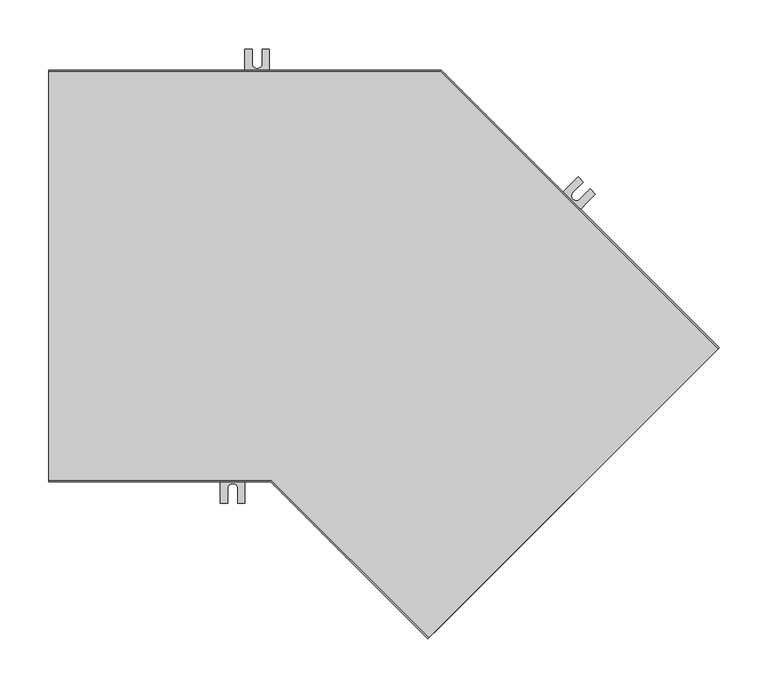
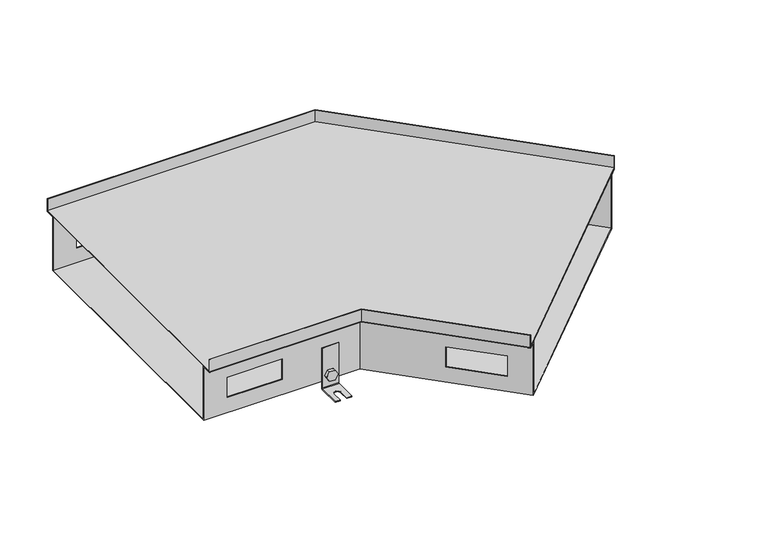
"""IFC4 building model written with IfcOpenShell, lengths in millimetres: proxy geometry, TECHNO_Угловой элемент_KVU : 420_105_135°."""

from ifc_helpers import new_model, si_unit, point, frame, frame_2d, origin, place, context, project, spatial, polyline, circle_curve, ellipse_curve, trimmed, segment, composite_curve, outline, extrude, source, transform, mapped, element, save
from ifc_brep_helpers import plane_surface, cylinder_surface, revolved_surface, advanced_brep


def mechanical_equipment_e89fac1e(model_context):
    return source(origin(), model_context, "Body", "SolidModel", [
        extrude(outline(composite_curve([segment(trimmed(circle_curve(frame_2d((0.0, -7.5)), 7.5), [point((0.0, -15.0))], [point((0.0, 0.0))], False, "CARTESIAN"), True, "CONTINUOUS"), segment(trimmed(circle_curve(frame_2d((0.0, -7.5)), 7.5), [point((0.0, 0.0))], [point((0.0, -15.0))], False, "CARTESIAN"), True, "CONTINUOUS")], self_intersect=False)), frame((475.0290547, -27.3050358, -95.5), z_axis=(0.7071067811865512, 0.7071067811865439, 0.0), x_axis=(0.0, 0.0, 1.0)), (0.0, 0.0, 1.0), 1.5),
        extrude(outline(polyline([(0.0, 0.0), (8.6602541, 0.0), (12.990381, -7.5), (8.660254, -15.0), (0.0, -15.0), (-4.330127, -7.5), (0.0, 0.0)])), frame((459.1472568, -20.3327833, -95.5), z_axis=(0.7071067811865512, 0.7071067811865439, 0.0), x_axis=(0.3535533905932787, -0.3535533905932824, -0.8660254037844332)), (0.0, 0.0, 1.0), 5.1),
        advanced_brep(
        [(477.7160605, -31.6890978, -50.5), (477.7160605, -31.6890978, -113.5), (477.1503751, -32.2547832, -114.3), (453.8158513, -55.589307, -114.3), (453.8158513, -55.589307, -115.5), (477.1503751, -32.2547832, -115.5), (478.5645886, -30.8405697, -113.5), (478.5645886, -30.8405697, -50.5), (460.038391, -14.0114283, -50.5), (460.8869191, -13.1629001, -50.5), (460.8869191, -13.1629001, -113.5), (459.4727056, -14.5771137, -115.5), (436.1381818, -37.9116375, -115.5), (436.1381818, -37.9116375, -114.3), (459.4727056, -14.5771137, -114.3), (460.038391, -14.0114283, -113.5), (441.4414826, -43.2149383, -114.3), (452.0480843, -32.6083366, -114.3), (459.1191522, -39.6794044, -114.3), (448.5125504, -50.2860062, -114.3), (448.5125504, -50.2860062, -115.5), (441.4414826, -43.2149383, -115.5), (459.1191522, -39.6794044, -115.5), (452.0480843, -32.6083366, -115.5)],
        [
            (0, 1),
            (1, 2, circle_curve(frame((477.1503751, -32.2547832, -113.5), z_axis=(-0.7071067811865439, 0.7071067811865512, 0.0), x_axis=(-0.7071067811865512, -0.7071067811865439, 0.0)), 0.8)),
            (2, 3),
            (3, 4),
            (4, 5),
            (5, 6, circle_curve(frame((477.1503751, -32.2547832, -113.5), z_axis=(0.7071067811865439, -0.7071067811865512, 0.0), x_axis=(-0.7071067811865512, -0.7071067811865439, 0.0)), 2.0)),
            (6, 7),
            (7, 0),
            (8, 9),
            (9, 10),
            (10, 11, circle_curve(frame((459.4727056, -14.5771137, -113.5), z_axis=(-0.7071067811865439, 0.7071067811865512, 0.0), x_axis=(-0.7071067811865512, -0.7071067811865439, 0.0)), 2.0)),
            (11, 12),
            (12, 13),
            (13, 14),
            (14, 15, circle_curve(frame((459.4727056, -14.5771137, -113.5), z_axis=(0.7071067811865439, -0.7071067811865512, 0.0), x_axis=(-0.7071067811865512, -0.7071067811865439, 0.0)), 0.8)),
            (15, 8),
            (0, 8),
            (15, 1),
            (14, 2),
            (13, 16),
            (16, 17),
            (17, 18, circle_curve(frame((455.5836183, -36.1438705, -114.3), z_axis=(0.0, 0.0, -1.0), x_axis=(0.7071067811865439, -0.7071067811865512, 0.0)), 5.0)),
            (18, 19),
            (19, 3),
            (19, 20),
            (20, 4),
            (12, 21),
            (21, 16),
            (20, 22),
            (22, 23, circle_curve(frame((455.5836183, -36.1438705, -115.5), z_axis=(0.0, 0.0, 1.0), x_axis=(0.7071067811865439, -0.7071067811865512, 0.0)), 5.0)),
            (23, 21),
            (11, 5),
            (10, 6),
            (9, 7),
            (23, 17),
            (18, 22),
        ],
        [
            plane_surface(frame((477.7160605, -31.6890978, -50.5), z_axis=(0.7071067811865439, -0.7071067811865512, 0.0), x_axis=(0.0, 0.0, -1.0))),
            plane_surface(frame((460.038391, -14.0114283, -50.5), z_axis=(-0.7071067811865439, 0.7071067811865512, 0.0), x_axis=(0.0, 0.0, 1.0))),
            plane_surface(frame((477.7160605, -31.6890978, -50.5), z_axis=(-0.7071067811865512, -0.7071067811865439, 0.0), x_axis=(-0.7071067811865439, 0.7071067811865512, 0.0))),
            revolved_surface(polyline([(458.9070201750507, -15.142799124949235, -113.5), (476.58468967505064, -32.82046862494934, -113.5)]), (459.4727056, -14.5771137, -113.5), (-0.7071067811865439, 0.7071067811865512, 0.0)),
            plane_surface(frame((477.1503751, -32.2547832, -114.3), z_axis=(0.0, 0.0, 1.0), x_axis=(-0.7071067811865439, 0.7071067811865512, 0.0))),
            plane_surface(frame((453.8158513, -55.589307, -114.3), z_axis=(-0.7071067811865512, -0.7071067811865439, 0.0), x_axis=(-0.7071067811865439, 0.7071067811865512, 0.0))),
            plane_surface(frame((453.8158513, -55.589307, -115.5), z_axis=(0.0, 0.0, -1.0), x_axis=(-0.7071067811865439, 0.7071067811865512, 0.0))),
            cylinder_surface(frame((459.4727056, -14.5771137, -113.5), z_axis=(0.7071067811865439, -0.7071067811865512, 0.0), x_axis=(-0.7071067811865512, -0.7071067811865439, 0.0)), 2.0),
            plane_surface(frame((478.5645886, -30.8405697, -113.5), z_axis=(0.7071067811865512, 0.7071067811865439, 0.0), x_axis=(-0.7071067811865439, 0.7071067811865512, 0.0))),
            plane_surface(frame((478.5645886, -30.8405697, -50.5), z_axis=(0.0, 0.0, 1.0), x_axis=(-0.7071067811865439, 0.7071067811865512, 0.0))),
            plane_surface(frame((452.0480843, -32.6083366, -114.3), z_axis=(0.7071067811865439, -0.7071067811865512, 0.0), x_axis=(0.0, 0.0, -1.0))),
            plane_surface(frame((448.5125504, -50.2860062, -114.3), z_axis=(-0.707106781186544, 0.7071067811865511, 0.0), x_axis=(0.0, 0.0, -1.0))),
            revolved_surface(polyline([(459.1191522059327, -39.67940440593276, -114.3), (459.1191522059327, -39.67940440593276, -115.5)]), (455.5836183, -36.1438705, -115.5), (0.0, 0.0, 1.0)),
        ],
        [
            (0, [[1, 2, 3, 4, 5, 6, 7, 8]]),
            (1, [[9, 10, 11, 12, 13, 14, 15, 16]]),
            (2, [[-1, 17, -16, 18]]),
            (3, [[-2, -18, -15, 19]]),
            (4, [[-3, -19, -14, 20, 21, 22, 23, 24]]),
            (5, [[-4, -24, 25, 26]]),
            (5, [[-13, 27, 28, -20]]),
            (6, [[-5, -26, 29, 30, 31, -27, -12, 32]]),
            (7, [[-6, -32, -11, 33]]),
            (8, [[-7, -33, -10, 34]]),
            (9, [[-8, -34, -9, -17]]),
            (10, [[35, -21, -28, -31]]),
            (11, [[36, -29, -25, -23]]),
            (12, [[-35, -30, -36, -22]]),
        ],
    ),
        extrude(outline(composite_curve([segment(trimmed(circle_curve(frame_2d((0.0, -7.5)), 7.5), [point((0.0, -15.0))], [point((0.0, 0.0))], False, "CARTESIAN"), True, "CONTINUOUS"), segment(trimmed(circle_curve(frame_2d((0.0, -7.5)), 7.5), [point((0.0, 0.0))], [point((0.0, -15.0))], False, "CARTESIAN"), True, "CONTINUOUS")], self_intersect=False)), frame((517.6675936, 71.9020456, -95.5), z_axis=(0.7071067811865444, 0.7071067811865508, 0.0), x_axis=(0.0, 0.0, -1.0)), (0.0, 0.0, 1.0), 1.5),
        extrude(outline(polyline([(0.0, 0.0), (4.330127, -7.5), (0.0, -15.0000001), (-8.660254, -15.0), (-12.9903811, -7.5000001), (-8.6602541, 0.0), (0.0, 0.0)])), frame((531.0038072, 62.3842087, -95.5), z_axis=(0.7071067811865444, 0.7071067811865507, 0.0), x_axis=(0.35355339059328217, -0.35355339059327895, 0.8660254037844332)), (0.0, 0.0, 1.0), 5.1),
        advanced_brep(
        [(516.041248, 77.3467678, -50.5), (516.041248, 77.3467678, -113.5), (516.6069335, 77.9124533, -114.3), (539.9414572, 101.2469771, -114.3), (539.9414572, 101.2469771, -115.5), (516.6069335, 77.9124533, -115.5), (515.1927199, 76.4982397, -113.5), (515.1927199, 76.4982397, -50.5), (533.7189176, 59.6690983, -50.5), (532.8703894, 58.8205702, -50.5), (532.8703894, 58.8205702, -113.5), (534.284603, 60.2347837, -115.5), (557.6191268, 83.5693075, -115.5), (557.6191268, 83.5693075, -114.3), (534.284603, 60.2347837, -114.3), (533.7189176, 59.6690983, -113.5), (552.3158259, 88.8726084, -114.3), (541.7092242, 78.2660067, -114.3), (534.6381564, 85.3370745, -114.3), (545.2447581, 95.9436762, -114.3), (545.2447581, 95.9436762, -115.5), (552.3158259, 88.8726084, -115.5), (534.6381564, 85.3370745, -115.5), (541.7092242, 78.2660067, -115.5)],
        [
            (0, 1),
            (1, 2, circle_curve(frame((516.6069335, 77.9124533, -113.5), z_axis=(0.7071067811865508, -0.7071067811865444, 0.0), x_axis=(0.7071067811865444, 0.7071067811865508, 0.0)), 0.8)),
            (2, 3),
            (3, 4),
            (4, 5),
            (5, 6, circle_curve(frame((516.6069335, 77.9124533, -113.5), z_axis=(-0.7071067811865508, 0.7071067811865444, 0.0), x_axis=(0.7071067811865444, 0.7071067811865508, 0.0)), 2.0)),
            (6, 7),
            (7, 0),
            (8, 9),
            (9, 10),
            (10, 11, circle_curve(frame((534.284603, 60.2347837, -113.5), z_axis=(0.7071067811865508, -0.7071067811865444, 0.0), x_axis=(0.7071067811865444, 0.7071067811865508, 0.0)), 2.0)),
            (11, 12),
            (12, 13),
            (13, 14),
            (14, 15, circle_curve(frame((534.284603, 60.2347837, -113.5), z_axis=(-0.7071067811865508, 0.7071067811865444, 0.0), x_axis=(0.7071067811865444, 0.7071067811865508, 0.0)), 0.8)),
            (15, 8),
            (0, 8),
            (15, 1),
            (14, 2),
            (13, 16),
            (16, 17),
            (17, 18, circle_curve(frame((538.1736903, 81.8015406, -114.3), z_axis=(0.0, 0.0, -1.0), x_axis=(-0.7071067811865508, 0.7071067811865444, 0.0)), 5.0)),
            (18, 19),
            (19, 3),
            (19, 20),
            (20, 4),
            (12, 21),
            (21, 16),
            (20, 22),
            (22, 23, circle_curve(frame((538.1736903, 81.8015406, -115.5), z_axis=(0.0, 0.0, 1.0), x_axis=(-0.7071067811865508, 0.7071067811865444, 0.0)), 5.0)),
            (23, 21),
            (11, 5),
            (10, 6),
            (9, 7),
            (23, 17),
            (18, 22),
        ],
        [
            plane_surface(frame((516.041248, 77.3467678, -50.5), z_axis=(-0.7071067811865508, 0.7071067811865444, 0.0), x_axis=(0.0, 0.0, -1.0))),
            plane_surface(frame((533.7189176, 59.6690983, -50.5), z_axis=(0.7071067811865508, -0.7071067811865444, 0.0), x_axis=(0.0, 0.0, 1.0))),
            plane_surface(frame((516.041248, 77.3467678, -50.5), z_axis=(0.7071067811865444, 0.7071067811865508, 0.0), x_axis=(0.7071067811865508, -0.7071067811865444, 0.0))),
            revolved_surface(polyline([(534.8502884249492, 60.800469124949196, -113.5), (517.1726188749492, 78.47813867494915, -113.5)]), (534.284603, 60.2347837, -113.5), (0.7071067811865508, -0.7071067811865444, 0.0)),
            plane_surface(frame((516.6069335, 77.9124533, -114.3), z_axis=(0.0, 0.0, 1.0000000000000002), x_axis=(0.7071067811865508, -0.7071067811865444, 0.0))),
            plane_surface(frame((539.9414572, 101.2469771, -114.3), z_axis=(0.7071067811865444, 0.7071067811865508, 0.0), x_axis=(0.7071067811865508, -0.7071067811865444, 0.0))),
            plane_surface(frame((539.9414572, 101.2469771, -115.5), z_axis=(0.0, 0.0, -1.0000000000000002), x_axis=(0.7071067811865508, -0.7071067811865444, 0.0))),
            cylinder_surface(frame((534.284603, 60.2347837, -113.5), z_axis=(-0.7071067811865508, 0.7071067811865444, 0.0), x_axis=(0.7071067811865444, 0.7071067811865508, 0.0)), 2.0),
            plane_surface(frame((515.1927199, 76.4982397, -113.5), z_axis=(-0.7071067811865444, -0.7071067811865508, 0.0), x_axis=(0.7071067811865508, -0.7071067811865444, 0.0))),
            plane_surface(frame((515.1927199, 76.4982397, -50.5), z_axis=(0.0, 0.0, 1.0000000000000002), x_axis=(0.7071067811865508, -0.7071067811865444, 0.0))),
            plane_surface(frame((541.7092242, 78.2660067, -114.3), z_axis=(-0.7071067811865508, 0.7071067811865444, 0.0), x_axis=(0.0, 0.0, -1.0))),
            plane_surface(frame((545.2447581, 95.9436762, -114.3), z_axis=(0.7071067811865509, -0.7071067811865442, 0.0), x_axis=(0.0, 0.0, -1.0))),
            revolved_surface(polyline([(534.6381563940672, 85.33707450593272, -114.3), (534.6381563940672, 85.33707450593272, -115.5)]), (538.1736903, 81.8015406, -115.5), (0.0, 0.0, 1.0)),
        ],
        [
            (0, [[1, 2, 3, 4, 5, 6, 7, 8]]),
            (1, [[9, 10, 11, 12, 13, 14, 15, 16]]),
            (2, [[-1, 17, -16, 18]]),
            (3, [[-2, -18, -15, 19]]),
            (4, [[-3, -19, -14, 20, 21, 22, 23, 24]]),
            (5, [[-4, -24, 25, 26]]),
            (5, [[-13, 27, 28, -20]]),
            (6, [[-5, -26, 29, 30, 31, -27, -12, 32]]),
            (7, [[-6, -32, -11, 33]]),
            (8, [[-7, -33, -10, 34]]),
            (9, [[-8, -34, -9, -17]]),
            (10, [[35, -21, -28, -31]]),
            (11, [[36, -29, -25, -23]]),
            (12, [[-35, -30, -36, -22]]),
        ],
    ),
        extrude(outline(composite_curve([segment(trimmed(circle_curve(frame_2d((-95.5, 212.5)), 7.5), [point((-95.5, 205.0))], [point((-95.5, 220.0))], False, "CARTESIAN"), True, "CONTINUOUS"), segment(trimmed(circle_curve(frame_2d((-95.5, 212.5)), 7.5), [point((-95.5, 220.0))], [point((-95.5, 205.0))], False, "CARTESIAN"), True, "CONTINUOUS")], self_intersect=False)), frame((0.0, 195.2, 0.0), z_axis=(0.0, 1.0, 0.0), x_axis=(0.0, 0.0, 1.0)), (0.0, 0.0, 1.0), 1.5),
        extrude(outline(polyline([(-95.5, 203.839746), (-103.0, 208.169873), (-103.0, 216.830127), (-95.5, 221.160254), (-88.0, 216.830127), (-88.0, 208.169873), (-95.5, 203.839746)])), frame((0.0, 197.9, 0.0), z_axis=(0.0, 1.0, 0.0), x_axis=(0.0, 0.0, 1.0)), (0.0, 0.0, 1.0), 5.1),
        advanced_brep(
        [(225.0, 197.9, -50.5), (225.0, 196.7, -50.5), (225.0, 196.7, -113.5), (225.0, 198.7, -115.5), (225.0, 231.7, -115.5), (225.0, 231.7, -114.3), (225.0, 198.7, -114.3), (225.0, 197.9, -113.5), (200.0, 197.9, -50.5), (200.0, 197.9, -113.5), (200.0, 198.7, -114.3), (200.0, 231.7, -114.3), (200.0, 231.7, -115.5), (200.0, 198.7, -115.5), (200.0, 196.7, -113.5), (200.0, 196.7, -50.5), (217.5, 231.7, -114.3), (217.5, 216.7, -114.3), (207.5, 216.7, -114.3), (207.5, 231.7, -114.3), (207.5, 231.7, -115.5), (217.5, 231.7, -115.5), (207.5, 216.7, -115.5), (217.5, 216.7, -115.5)],
        [
            (0, 1),
            (1, 2),
            (2, 3, circle_curve(frame((225.0, 198.7, -113.5), z_axis=(1.0, 0.0, 0.0), x_axis=(0.0, 1.0, 0.0)), 2.0)),
            (3, 4),
            (4, 5),
            (5, 6),
            (6, 7, circle_curve(frame((225.0, 198.7, -113.5), z_axis=(-1.0, 0.0, 0.0), x_axis=(0.0, 1.0, 0.0)), 0.8)),
            (7, 0),
            (8, 9),
            (9, 10, circle_curve(frame((200.0, 198.7, -113.5), z_axis=(1.0, 0.0, 0.0), x_axis=(0.0, 1.0, 0.0)), 0.8)),
            (10, 11),
            (11, 12),
            (12, 13),
            (13, 14, circle_curve(frame((200.0, 198.7, -113.5), z_axis=(-1.0, 0.0, 0.0), x_axis=(0.0, 1.0, 0.0)), 2.0)),
            (14, 15),
            (15, 8),
            (7, 9),
            (8, 0),
            (6, 10),
            (5, 16),
            (16, 17),
            (17, 18, circle_curve(frame((212.5, 216.7, -114.3), z_axis=(0.0, 0.0, -1.0), x_axis=(1.0, 0.0, 0.0)), 5.0)),
            (18, 19),
            (19, 11),
            (19, 20),
            (20, 12),
            (4, 21),
            (21, 16),
            (3, 13),
            (20, 22),
            (22, 23, circle_curve(frame((212.5, 216.7, -115.5), z_axis=(0.0, 0.0, 1.0), x_axis=(1.0, 0.0, 0.0)), 5.0)),
            (23, 21),
            (2, 14),
            (1, 15),
            (18, 22),
            (23, 17),
        ],
        [
            plane_surface(frame((225.0, 197.9, -50.5), z_axis=(1.0, 0.0, 0.0), x_axis=(0.0, 0.0, -1.0))),
            plane_surface(frame((200.0, 197.9, -50.5), z_axis=(-1.0, 0.0, 0.0), x_axis=(0.0, 0.0, 1.0))),
            plane_surface(frame((225.0, 197.9, -50.5), z_axis=(0.0, 1.0, 0.0), x_axis=(-1.0, 0.0, 0.0))),
            revolved_surface(polyline([(200.0, 199.5, -113.5), (225.0, 199.5, -113.5)]), (200.0, 198.7, -113.5), (-1.0, 0.0, 0.0)),
            plane_surface(frame((225.0, 198.7, -114.3), z_axis=(0.0, 0.0, 1.0), x_axis=(-1.0, 0.0, 0.0))),
            plane_surface(frame((225.0, 231.7, -114.3), z_axis=(0.0, 1.0, 0.0), x_axis=(-1.0, 0.0, 0.0))),
            plane_surface(frame((225.0, 231.7, -115.5), z_axis=(0.0, 0.0, -1.0), x_axis=(-1.0, 0.0, 0.0))),
            cylinder_surface(frame((200.0, 198.7, -113.5), z_axis=(1.0, 0.0, 0.0), x_axis=(0.0, 1.0, 0.0)), 2.0),
            plane_surface(frame((225.0, 196.7, -113.5), z_axis=(0.0, -1.0, 0.0), x_axis=(-1.0, 0.0, 0.0))),
            plane_surface(frame((225.0, 196.7, -50.5), z_axis=(0.0, 0.0, 1.0), x_axis=(-1.0, 0.0, 0.0))),
            plane_surface(frame((207.5, 216.7, -114.3), z_axis=(1.0, 0.0, 0.0), x_axis=(0.0, 0.0, -1.0))),
            plane_surface(frame((217.5, 231.7, -114.3), z_axis=(-1.0, 0.0, 0.0), x_axis=(0.0, 0.0, -1.0))),
            revolved_surface(polyline([(217.5, 216.7, -114.3), (217.5, 216.7, -115.5)]), (212.5, 216.7, -115.5), (0.0, 0.0, 1.0)),
        ],
        [
            (0, [[1, 2, 3, 4, 5, 6, 7, 8]]),
            (1, [[9, 10, 11, 12, 13, 14, 15, 16]]),
            (2, [[17, -9, 18, -8]]),
            (3, [[19, -10, -17, -7]]),
            (4, [[20, 21, 22, 23, 24, -11, -19, -6]]),
            (5, [[-24, 25, 26, -12]]),
            (5, [[27, 28, -20, -5]]),
            (6, [[29, -13, -26, 30, 31, 32, -27, -4]]),
            (7, [[33, -14, -29, -3]]),
            (8, [[34, -15, -33, -2]]),
            (9, [[-18, -16, -34, -1]]),
            (10, [[-30, -25, -23, 35]]),
            (11, [[-21, -28, -32, 36]]),
            (12, [[-22, -36, -31, -35]]),
        ],
    ),
        extrude(outline(composite_curve([segment(trimmed(circle_curve(frame_2d((-95.5, 187.5)), 7.5), [point((-95.5, 180.0))], [point((-95.5, 195.0))], False, "CARTESIAN"), True, "CONTINUOUS"), segment(trimmed(circle_curve(frame_2d((-95.5, 187.5)), 7.5), [point((-95.5, 195.0))], [point((-95.5, 180.0))], False, "CARTESIAN"), True, "CONTINUOUS")], self_intersect=False)), frame((0.0, -196.7, 0.0), z_axis=(0.0, 1.0, 0.0), x_axis=(0.0, 0.0, 1.0)), (0.0, 0.0, 1.0), 1.5),
        extrude(outline(polyline([(-95.5, 178.839746), (-103.0, 183.169873), (-103.0, 191.830127), (-95.5, 196.160254), (-88.0, 191.830127), (-88.0, 183.169873), (-95.5, 178.839746)])), frame((0.0, -203.0, 0.0), z_axis=(0.0, 1.0, 0.0), x_axis=(0.0, 0.0, 1.0)), (0.0, 0.0, 1.0), 5.1),
        advanced_brep(
        [(200.0, -197.9, -50.5), (200.0, -197.9, -113.5), (200.0, -198.7, -114.3), (200.0, -231.7, -114.3), (200.0, -231.7, -115.5), (200.0, -198.7, -115.5), (200.0, -196.7, -113.5), (200.0, -196.7, -50.5), (175.0, -197.9, -50.5), (175.0, -196.7, -50.5), (175.0, -196.7, -113.5), (175.0, -198.7, -115.5), (175.0, -231.7, -115.5), (175.0, -231.7, -114.3), (175.0, -198.7, -114.3), (175.0, -197.9, -113.5), (182.5, -231.7, -114.3), (182.5, -216.7, -114.3), (192.5, -216.7, -114.3), (192.5, -231.7, -114.3), (192.5, -231.7, -115.5), (182.5, -231.7, -115.5), (192.5, -216.7, -115.5), (182.5, -216.7, -115.5)],
        [
            (0, 1),
            (1, 2, circle_curve(frame((200.0, -198.7, -113.5), z_axis=(-1.0, 0.0, 0.0), x_axis=(0.0, -1.0, 0.0)), 0.8)),
            (2, 3),
            (3, 4),
            (4, 5),
            (5, 6, circle_curve(frame((200.0, -198.7, -113.5), z_axis=(1.0, 0.0, 0.0), x_axis=(0.0, -1.0, 0.0)), 2.0)),
            (6, 7),
            (7, 0),
            (8, 9),
            (9, 10),
            (10, 11, circle_curve(frame((175.0, -198.7, -113.5), z_axis=(-1.0, 0.0, 0.0), x_axis=(0.0, -1.0, 0.0)), 2.0)),
            (11, 12),
            (12, 13),
            (13, 14),
            (14, 15, circle_curve(frame((175.0, -198.7, -113.5), z_axis=(1.0, 0.0, 0.0), x_axis=(0.0, -1.0, 0.0)), 0.8)),
            (15, 8),
            (0, 8),
            (15, 1),
            (14, 2),
            (13, 16),
            (16, 17),
            (17, 18, circle_curve(frame((187.5, -216.7, -114.3), z_axis=(0.0, 0.0, -1.0), x_axis=(1.0, 0.0, 0.0)), 5.0)),
            (18, 19),
            (19, 3),
            (19, 20),
            (20, 4),
            (12, 21),
            (21, 16),
            (20, 22),
            (22, 23, circle_curve(frame((187.5, -216.7, -115.5), z_axis=(0.0, 0.0, 1.0), x_axis=(1.0, 0.0, 0.0)), 5.0)),
            (23, 21),
            (11, 5),
            (10, 6),
            (9, 7),
            (23, 17),
            (18, 22),
        ],
        [
            plane_surface(frame((200.0, -197.9, -50.5), z_axis=(1.0, 0.0, 0.0), x_axis=(0.0, 0.0, -1.0))),
            plane_surface(frame((175.0, -197.9, -50.5), z_axis=(-1.0, 0.0, 0.0), x_axis=(0.0, 0.0, 1.0))),
            plane_surface(frame((200.0, -197.9, -50.5), z_axis=(0.0, -1.0, 0.0), x_axis=(-1.0, 0.0, 0.0))),
            revolved_surface(polyline([(175.0, -199.5, -113.5), (200.0, -199.5, -113.5)]), (175.0, -198.7, -113.5), (-1.0, 0.0, 0.0)),
            plane_surface(frame((200.0, -198.7, -114.3), z_axis=(0.0, 0.0, 1.0), x_axis=(-1.0, 0.0, 0.0))),
            plane_surface(frame((200.0, -231.7, -114.3), z_axis=(0.0, -1.0, 0.0), x_axis=(-1.0, 0.0, 0.0))),
            plane_surface(frame((200.0, -231.7, -115.5), z_axis=(0.0, 0.0, -1.0), x_axis=(-1.0, 0.0, 0.0))),
            cylinder_surface(frame((175.0, -198.7, -113.5), z_axis=(1.0, 0.0, 0.0), x_axis=(0.0, -1.0, 0.0)), 2.0),
            plane_surface(frame((200.0, -196.7, -113.5), z_axis=(0.0, 1.0, 0.0), x_axis=(-1.0, 0.0, 0.0))),
            plane_surface(frame((200.0, -196.7, -50.5), z_axis=(0.0, 0.0, 1.0), x_axis=(-1.0, 0.0, 0.0))),
            plane_surface(frame((182.5, -216.7, -114.3), z_axis=(1.0, 0.0, 0.0), x_axis=(0.0, 0.0, -1.0))),
            plane_surface(frame((192.5, -231.7, -114.3), z_axis=(-1.0, 0.0, 0.0), x_axis=(0.0, 0.0, -1.0))),
            revolved_surface(polyline([(192.5, -216.7, -114.3), (192.5, -216.7, -115.5)]), (187.5, -216.7, -115.5), (0.0, 0.0, 1.0)),
        ],
        [
            (0, [[1, 2, 3, 4, 5, 6, 7, 8]]),
            (1, [[9, 10, 11, 12, 13, 14, 15, 16]]),
            (2, [[-1, 17, -16, 18]]),
            (3, [[-2, -18, -15, 19]]),
            (4, [[-3, -19, -14, 20, 21, 22, 23, 24]]),
            (5, [[-4, -24, 25, 26]]),
            (5, [[-13, 27, 28, -20]]),
            (6, [[-5, -26, 29, 30, 31, -27, -12, 32]]),
            (7, [[-6, -32, -11, 33]]),
            (8, [[-7, -33, -10, 34]]),
            (9, [[-8, -34, -9, -17]]),
            (10, [[35, -21, -28, -31]]),
            (11, [[36, -29, -25, -23]]),
            (12, [[-35, -30, -36, -22]]),
        ],
    ),
        extrude(outline(polyline([(682.8477377, -74.044794), (387.5599459, -369.3325858), (227.0273601, -208.8), (0.0, -208.8), (0.0, 208.8), (400.0029437, 208.8), (682.8477377, -74.044794)])), frame((0.0, 0.0, -19.3), z_axis=(0.0, 0.0, 1.0), x_axis=(1.0, 0.0, 0.0)), (0.0, 0.0, 1.0), 1.2),
        advanced_brep(
        [(386.7114178, -370.181114, -19.3), (387.5599459, -369.3325858, -20.5), (397.1765981, -359.7159336, -20.5), (397.1765981, -359.7159336, -105.0), (673.2310855, -83.6614462, -105.0), (673.2310855, -83.6614462, -20.5), (682.8477377, -74.044794, -20.5), (683.6962659, -73.1962659, -19.3), (683.6962659, -73.1962659, 0.0), (682.8477377, -74.044794, 0.0), (682.8477377, -74.044794, -19.3), (673.2310855, -83.6614462, -19.3), (672.3825574, -84.5099744, -20.5), (672.3825574, -84.5099744, -103.8), (398.0251263, -358.8674055, -103.8), (398.0251263, -358.8674055, -20.5), (397.1765981, -359.7159336, -19.3), (387.5599459, -369.3325858, -19.3), (387.5599459, -369.3325858, 0.0), (386.7114178, -370.181114, 0.0), (0.0, -210.0, -19.3), (0.0, -210.0, 0.0), (0.0, -208.8, 0.0), (0.0, -208.8, -19.3), (0.0, -195.2, -19.3), (0.0, -194.0, -20.5), (0.0, -194.0, -103.8), (0.0, 194.0, -103.8), (0.0, 194.0, -20.5), (0.0, 195.2, -19.3), (0.0, 208.8, -19.3), (0.0, 208.8, 0.0), (0.0, 210.0, 0.0), (0.0, 210.0, -19.3), (0.0, 208.8, -20.5), (0.0, 195.2, -20.5), (0.0, 195.2, -105.0), (0.0, -195.2, -105.0), (0.0, -195.2, -20.5), (0.0, -208.8, -20.5), (227.0273601, -208.8, -20.5), (226.5303038, -210.0, -19.3), (227.0273601, -208.8, 0.0), (227.0273601, -208.8, -19.3), (232.6606645, -195.2, -105.0), (232.6606645, -195.2, -20.5), (35.0, -195.2, -49.0), (117.0, -195.2, -49.0), (117.0, -195.2, -81.0), (35.0, -195.2, -81.0), (233.1577208, -194.0, -20.5), (233.1577208, -194.0, -103.8), (117.0, -194.0, -49.0), (35.0, -194.0, -49.0), (35.0, -194.0, -81.0), (117.0, -194.0, -81.0), (232.6606645, -195.2, -19.3), (314.4451047, -276.9844402, -49.0), (372.4278608, -334.9671963, -49.0), (372.4278608, -334.9671963, -81.0), (314.4451047, -276.9844402, -81.0), (394.3696393, 195.2, -105.0), (393.872583, 194.0, -103.8), (373.2763889, -334.1186681, -49.0), (315.2936329, -276.1359121, -49.0), (315.2936329, -276.1359121, -81.0), (373.2763889, -334.1186681, -81.0), (226.5303038, -210.0, 0.0), (394.3696393, 195.2, -20.5), (648.4823482, -58.9127089, -49.0), (590.4995921, -0.9299528, -49.0), (590.4995921, -0.9299528, -81.0), (648.4823482, -58.9127089, -81.0), (400.0029437, 208.8, -20.5), (400.5, 210.0, -19.3), (400.5, 210.0, 0.0), (400.0029437, 208.8, 0.0), (400.0029437, 208.8, -19.3), (394.3696393, 195.2, -19.3), (393.872583, 194.0, -20.5), (589.651064, -1.778481, -49.0), (647.63382, -59.761237, -49.0), (647.63382, -59.761237, -81.0), (589.651064, -1.778481, -81.0), (117.0, 195.2, -49.0), (35.0, 195.2, -49.0), (35.0, 195.2, -81.0), (117.0, 195.2, -81.0), (35.0, 194.0, -49.0), (117.0, 194.0, -49.0), (117.0, 194.0, -81.0), (35.0, 194.0, -81.0)],
        [
            (0, 1, circle_curve(frame((387.5599459, -369.3325858, -19.3), z_axis=(0.707106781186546, -0.707106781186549, 0.0), x_axis=(-0.707106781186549, -0.707106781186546, 0.0)), 1.2)),
            (1, 2),
            (2, 3),
            (3, 4),
            (4, 5),
            (5, 6),
            (6, 7, circle_curve(frame((682.8477377, -74.044794, -19.3), z_axis=(0.707106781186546, -0.707106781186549, 0.0), x_axis=(-0.707106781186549, -0.707106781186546, 0.0)), 1.2)),
            (7, 8),
            (8, 9),
            (9, 10),
            (10, 11),
            (11, 12, circle_curve(frame((673.2310855, -83.6614462, -20.5), z_axis=(0.707106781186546, -0.707106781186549, 0.0), x_axis=(-0.707106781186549, -0.707106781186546, 0.0)), 1.2)),
            (12, 13),
            (13, 14),
            (14, 15),
            (15, 16, circle_curve(frame((397.1765981, -359.7159336, -20.5), z_axis=(0.707106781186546, -0.707106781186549, 0.0), x_axis=(-0.707106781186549, -0.707106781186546, 0.0)), 1.2)),
            (16, 17),
            (17, 18),
            (18, 19),
            (19, 0),
            (20, 21),
            (21, 22),
            (22, 23),
            (23, 24),
            (24, 25, circle_curve(frame((0.0, -195.2, -20.5), z_axis=(-1.0, 0.0, 0.0), x_axis=(0.0, -1.0, 0.0)), 1.2)),
            (25, 26),
            (26, 27),
            (27, 28),
            (28, 29, circle_curve(frame((0.0, 195.2, -20.5), z_axis=(-1.0, 0.0, 0.0), x_axis=(0.0, -1.0, 0.0)), 1.2)),
            (29, 30),
            (30, 31),
            (31, 32),
            (32, 33),
            (33, 34, circle_curve(frame((0.0, 208.8, -19.3), z_axis=(-1.0, 0.0, 0.0), x_axis=(0.0, -1.0, 0.0)), 1.2)),
            (34, 35),
            (35, 36),
            (36, 37),
            (37, 38),
            (38, 39),
            (39, 20, circle_curve(frame((0.0, -208.8, -19.3), z_axis=(-1.0, 0.0, 0.0), x_axis=(0.0, -1.0, 0.0)), 1.2)),
            (39, 40),
            (40, 41, ellipse_curve(frame((227.0273601, -208.8, -19.3), z_axis=(-0.9238795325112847, 0.3826834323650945, 0.0), x_axis=(0.3826834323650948, 0.9238795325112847, 0.0)), 1.2988706, 1.2)),
            (41, 20),
            (22, 42),
            (42, 43),
            (43, 23),
            (37, 44),
            (44, 45),
            (45, 38),
            (46, 47),
            (47, 48),
            (48, 49),
            (49, 46),
            (25, 50),
            (50, 51),
            (51, 26),
            (52, 53),
            (53, 54),
            (54, 55),
            (55, 52),
            (24, 56),
            (56, 50, ellipse_curve(frame((232.6606645, -195.2, -20.5), z_axis=(-0.9238795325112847, 0.3826834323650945, 0.0), x_axis=(0.3826834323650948, 0.9238795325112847, 0.0)), 1.2988706, 1.2)),
            (0, 41),
            (40, 1),
            (45, 2),
            (44, 3),
            (57, 58),
            (58, 59),
            (59, 60),
            (60, 57),
            (36, 61),
            (61, 4),
            (13, 62),
            (62, 27),
            (51, 14),
            (50, 15),
            (63, 64),
            (64, 65),
            (65, 66),
            (66, 63),
            (56, 16),
            (43, 17),
            (42, 18),
            (21, 67),
            (67, 19),
            (61, 68),
            (68, 5),
            (69, 70),
            (70, 71),
            (71, 72),
            (72, 69),
            (68, 35),
            (34, 73),
            (73, 6),
            (73, 74, ellipse_curve(frame((400.0029437, 208.8, -19.3), z_axis=(0.9238795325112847, -0.3826834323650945, 0.0), x_axis=(-0.38268343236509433, -0.9238795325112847, 0.0)), 1.2988706, 1.2)),
            (74, 7),
            (74, 75),
            (75, 8),
            (75, 32),
            (31, 76),
            (76, 9),
            (76, 77),
            (77, 10),
            (77, 30),
            (29, 78),
            (78, 11),
            (78, 79, ellipse_curve(frame((394.3696393, 195.2, -20.5), z_axis=(0.9238795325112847, -0.3826834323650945, 0.0), x_axis=(-0.38268343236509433, -0.9238795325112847, 0.0)), 1.2988706, 1.2)),
            (79, 12),
            (79, 62),
            (80, 81),
            (81, 82),
            (82, 83),
            (83, 80),
            (84, 85),
            (85, 86),
            (86, 87),
            (87, 84),
            (33, 74),
            (28, 79),
            (88, 89),
            (89, 90),
            (90, 91),
            (91, 88),
            (41, 67),
            (46, 53),
            (52, 47),
            (88, 85),
            (84, 89),
            (49, 54),
            (91, 86),
            (48, 55),
            (90, 87),
            (57, 64),
            (63, 58),
            (80, 70),
            (69, 81),
            (66, 59),
            (72, 82),
            (65, 60),
            (71, 83),
        ],
        [
            plane_surface(frame((535.2038418, -221.6886899, 0.0), z_axis=(0.707106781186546, -0.707106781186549, 0.0), x_axis=(0.0, 0.0, 1.0))),
            plane_surface(frame((0.0, 0.0, 0.0), z_axis=(-1.0, 0.0, 0.0), x_axis=(0.0, 0.0, 1.0))),
            cylinder_surface(frame((313.5151519, -208.8, -19.3), z_axis=(1.0, 0.0, 0.0), x_axis=(0.0, -1.0, 0.0)), 1.2),
            plane_surface(frame((227.0273601, -208.8, -19.3), z_axis=(0.0, 1.0, 0.0), x_axis=(-1.0, 0.0, 0.0))),
            plane_surface(frame((232.6606645, -195.2, -20.5), z_axis=(0.0, -1.0, 0.0), x_axis=(-1.0, 0.0, 0.0))),
            plane_surface(frame((233.1577208, -194.0, -103.8), z_axis=(0.0, 1.0, 0.0), x_axis=(-1.0, 0.0, 0.0))),
            cylinder_surface(frame((313.5151519, -195.2, -20.5), z_axis=(1.0, 0.0, 0.0), x_axis=(0.0, -1.0, 0.0)), 1.2),
            cylinder_surface(frame((387.5599459, -369.3325858, -19.3), z_axis=(0.707106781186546, -0.707106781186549, 0.0), x_axis=(-0.707106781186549, -0.707106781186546, 0.0)), 1.2),
            plane_surface(frame((387.5599459, -369.3325858, -20.5), z_axis=(0.0, 0.0, -1.0), x_axis=(-0.7071067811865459, 0.7071067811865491, 0.0))),
            plane_surface(frame((397.1765981, -359.7159336, -20.5), z_axis=(-0.707106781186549, -0.707106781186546, 0.0), x_axis=(-0.707106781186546, 0.707106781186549, 0.0))),
            plane_surface(frame((397.1765981, -359.7159336, -105.0), z_axis=(0.0, 0.0, -1.0000000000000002), x_axis=(-0.7071067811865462, 0.7071067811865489, 0.0))),
            plane_surface(frame((672.3825574, -84.5099744, -103.8), z_axis=(0.0, 0.0, 1.0), x_axis=(-0.707106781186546, 0.7071067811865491, 0.0))),
            plane_surface(frame((398.0251263, -358.8674055, -103.8), z_axis=(0.7071067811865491, 0.707106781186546, 0.0), x_axis=(-0.707106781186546, 0.7071067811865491, 0.0))),
            cylinder_surface(frame((397.1765981, -359.7159336, -20.5), z_axis=(0.707106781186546, -0.707106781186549, 0.0), x_axis=(-0.707106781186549, -0.707106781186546, 0.0)), 1.2),
            plane_surface(frame((397.1765981, -359.7159336, -19.3), z_axis=(0.0, 0.0, 1.0), x_axis=(-0.707106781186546, 0.7071067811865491, 0.0))),
            plane_surface(frame((387.5599459, -369.3325858, -19.3), z_axis=(0.7071067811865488, 0.7071067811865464, 0.0), x_axis=(-0.7071067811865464, 0.7071067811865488, 0.0))),
            plane_surface(frame((387.5599459, -369.3325858, 0.0), z_axis=(0.0, 0.0, 1.0), x_axis=(-0.7071067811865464, 0.7071067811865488, 0.0))),
            plane_surface(frame((673.2310855, -83.6614462, -105.0), z_axis=(0.707106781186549, 0.707106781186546, 0.0), x_axis=(-0.707106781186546, 0.707106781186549, 0.0))),
            plane_surface(frame((673.2310855, -83.6614462, -20.5), z_axis=(0.0, 0.0, -1.0), x_axis=(-0.7071067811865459, 0.7071067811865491, 0.0))),
            cylinder_surface(frame((682.8477377, -74.044794, -19.3), z_axis=(0.707106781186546, -0.707106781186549, 0.0), x_axis=(-0.707106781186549, -0.707106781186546, 0.0)), 1.2),
            plane_surface(frame((683.6962659, -73.1962659, -19.3), z_axis=(0.7071067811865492, 0.7071067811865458, 0.0), x_axis=(-0.7071067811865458, 0.7071067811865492, 0.0))),
            plane_surface(frame((683.6962659, -73.1962659, 0.0), z_axis=(0.0, 0.0, 1.0), x_axis=(-0.7071067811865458, 0.7071067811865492, 0.0))),
            plane_surface(frame((682.8477377, -74.044794, 0.0), z_axis=(-0.707106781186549, -0.7071067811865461, 0.0), x_axis=(-0.7071067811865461, 0.707106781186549, 0.0))),
            plane_surface(frame((682.8477377, -74.044794, -19.3), z_axis=(0.0, 0.0, 1.0), x_axis=(-0.7071067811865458, 0.7071067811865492, 0.0))),
            cylinder_surface(frame((673.2310855, -83.6614462, -20.5), z_axis=(0.707106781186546, -0.707106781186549, 0.0), x_axis=(-0.707106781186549, -0.707106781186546, 0.0)), 1.2),
            plane_surface(frame((672.3825574, -84.5099744, -20.5), z_axis=(-0.7071067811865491, -0.707106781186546, 0.0), x_axis=(-0.707106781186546, 0.7071067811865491, 0.0))),
            plane_surface(frame((394.3696393, 195.2, -105.0), z_axis=(0.0, 1.0, 0.0), x_axis=(-1.0, 0.0, 0.0))),
            cylinder_surface(frame((313.5151519, 208.8, -19.3), z_axis=(1.0, 0.0, 0.0), x_axis=(0.0, -1.0, 0.0)), 1.2),
            plane_surface(frame((400.5, 210.0, -19.3), z_axis=(0.0, 1.0, 0.0), x_axis=(-1.0, 0.0, 0.0))),
            plane_surface(frame((400.0029437, 208.8, 0.0), z_axis=(0.0, -1.0, 0.0), x_axis=(-1.0, 0.0, 0.0))),
            cylinder_surface(frame((313.5151519, 195.2, -20.5), z_axis=(1.0, 0.0, 0.0), x_axis=(0.0, -1.0, 0.0)), 1.2),
            plane_surface(frame((393.872583, 194.0, -20.5), z_axis=(0.0, -1.0, 0.0), x_axis=(-1.0, 0.0, 0.0))),
            plane_surface(frame((226.5303038, -210.0, 0.0), z_axis=(0.0, -1.0, 0.0), x_axis=(-1.0, 0.0, 0.0))),
            plane_surface(frame((386.7114178, -370.181114, 0.0), z_axis=(-0.7071067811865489, -0.7071067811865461, 0.0), x_axis=(-0.7071067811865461, 0.7071067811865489, 0.0))),
            plane_surface(frame((35.0, 210.0, -49.0), z_axis=(0.0, 0.0, -1.0), x_axis=(0.0, -1.0, 0.0))),
            plane_surface(frame((35.0, 210.0, -81.0), z_axis=(1.0, 0.0, 0.0), x_axis=(0.0, -1.0, 0.0))),
            plane_surface(frame((117.0, 210.0, -81.0), z_axis=(0.0, 0.0, 1.0), x_axis=(0.0, -1.0, 0.0))),
            plane_surface(frame((117.0, 210.0, -49.0), z_axis=(-1.0, 0.0, 0.0), x_axis=(0.0, -1.0, 0.0))),
            plane_surface(frame((600.9647725, 9.5352275, -49.0), z_axis=(0.0, 0.0, -1.0), x_axis=(-0.7071067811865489, -0.7071067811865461, 0.0))),
            plane_surface(frame((658.9475285, -48.4475285, -49.0), z_axis=(-0.7071067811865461, 0.7071067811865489, 0.0), x_axis=(-0.7071067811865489, -0.7071067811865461, 0.0))),
            plane_surface(frame((658.9475285, -48.4475285, -81.0), z_axis=(0.0, 0.0, 1.0), x_axis=(-0.7071067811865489, -0.7071067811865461, 0.0))),
            plane_surface(frame((600.9647725, 9.5352275, -81.0), z_axis=(0.7071067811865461, -0.7071067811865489, 0.0), x_axis=(-0.7071067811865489, -0.7071067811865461, 0.0))),
        ],
        [
            (0, [[1, 2, 3, 4, 5, 6, 7, 8, 9, 10, 11, 12, 13, 14, 15, 16, 17, 18, 19, 20]]),
            (1, [[21, 22, 23, 24, 25, 26, 27, 28, 29, 30, 31, 32, 33, 34, 35, 36, 37, 38, 39, 40]]),
            (2, [[-40, 41, 42, 43]]),
            (3, [[-23, 44, 45, 46]]),
            (4, [[-38, 47, 48, 49], [50, 51, 52, 53]]),
            (5, [[-26, 54, 55, 56], [57, 58, 59, 60]]),
            (6, [[-25, 61, 62, -54]]),
            (7, [[-1, 63, -42, 64]]),
            (8, [[-2, -64, -41, -39, -49, 65]]),
            (9, [[-3, -65, -48, 66], [67, 68, 69, 70]]),
            (10, [[-4, -66, -47, -37, 71, 72]]),
            (11, [[-14, 73, 74, -27, -56, 75]]),
            (12, [[-15, -75, -55, 76], [77, 78, 79, 80]]),
            (13, [[-16, -76, -62, 81]]),
            (14, [[-17, -81, -61, -24, -46, 82]]),
            (15, [[-18, -82, -45, 83]]),
            (16, [[-19, -83, -44, -22, 84, 85]]),
            (17, [[-5, -72, 86, 87], [88, 89, 90, 91]]),
            (18, [[-6, -87, 92, -35, 93, 94]]),
            (19, [[-7, -94, 95, 96]]),
            (20, [[-8, -96, 97, 98]]),
            (21, [[-9, -98, 99, -32, 100, 101]]),
            (22, [[-10, -101, 102, 103]]),
            (23, [[-11, -103, 104, -30, 105, 106]]),
            (24, [[-12, -106, 107, 108]]),
            (25, [[-13, -108, 109, -73], [110, 111, 112, 113]]),
            (26, [[-36, -92, -86, -71], [114, 115, 116, 117]]),
            (27, [[-34, 118, -95, -93]]),
            (28, [[-33, -99, -97, -118]]),
            (29, [[-31, -104, -102, -100]]),
            (30, [[-29, 119, -107, -105]]),
            (31, [[-28, -74, -109, -119], [120, 121, 122, 123]]),
            (32, [[-21, -43, 124, -84]]),
            (33, [[-20, -85, -124, -63]]),
            (34, [[125, -57, 126, -50]]),
            (34, [[127, -114, 128, -120]]),
            (35, [[-125, -53, 129, -58]]),
            (35, [[-127, -123, 130, -115]]),
            (36, [[-129, -52, 131, -59]]),
            (36, [[-130, -122, 132, -116]]),
            (37, [[-131, -51, -126, -60]]),
            (37, [[-132, -121, -128, -117]]),
            (38, [[133, -77, 134, -67]]),
            (38, [[135, -88, 136, -110]]),
            (39, [[-134, -80, 137, -68]]),
            (39, [[-136, -91, 138, -111]]),
            (40, [[-137, -79, 139, -69]]),
            (40, [[-138, -90, 140, -112]]),
            (41, [[-133, -70, -139, -78]]),
            (41, [[-135, -113, -140, -89]]),
        ],
    ),
    ])


if __name__ == "__main__":
    model = new_model("IFC4")
    model_context = context("Model", 3, world=origin())
    ifc_project = project(units=[si_unit("LENGTHUNIT", "METRE", prefix="MILLI")], contexts=[model_context])
    site = spatial("IfcSite", under=ifc_project)
    building = spatial("IfcBuilding", under=site)
    placement = place(None, origin())
    mechanical_equipment_shape = mechanical_equipment_e89fac1e(model_context)
    element("IfcBuildingElementProxy", 1, Name="TECHNO_Угловой элемент_KVU : 420_105_135°", ObjectType="TECHNO_Угловой элемент_KVU : 420_105_135°", at=placement, inside=building, context=model_context, shape_type="MappedRepresentation", body=[
        mapped(mechanical_equipment_shape, transform((0.0, 0.0, 0.0), x_axis=(1.0, 0.0, 0.0), y_axis=(0.0, 1.0, 0.0), z_axis=(0.0, 0.0, 1.0))),
    ])
    save(model, "model.ifc")
